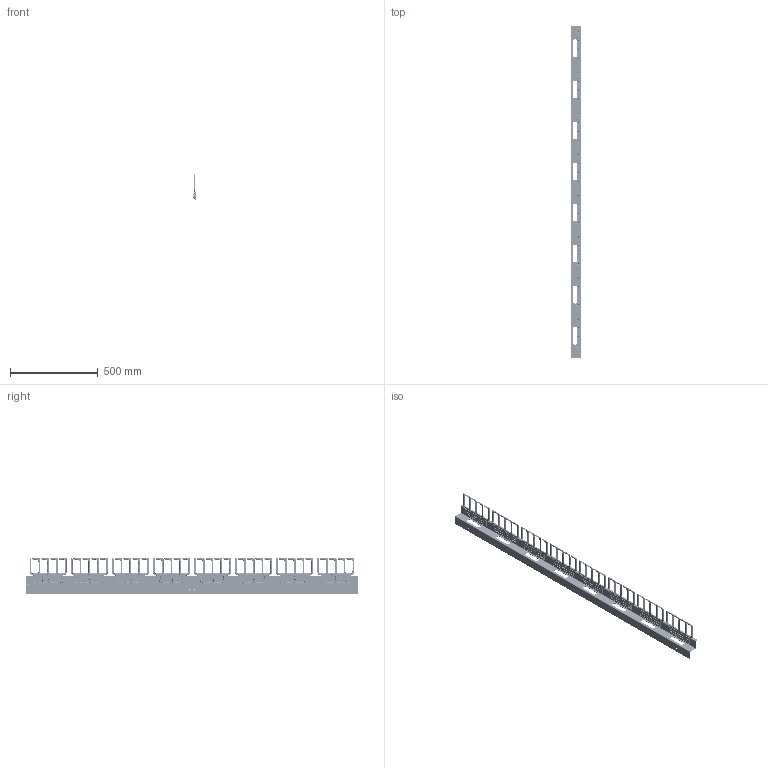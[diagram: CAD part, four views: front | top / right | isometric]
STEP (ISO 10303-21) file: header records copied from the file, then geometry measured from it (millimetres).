
FILE_DESCRIPTION((''),'2;1');
FILE_NAME('D:\Scratch\Ideas\pdp167\PRBF205.stp', '2005-11-22T10:14:10',('User'),('SDRC'),'I-DEAS Master Series 9','UNIX', 'Yes');
FILE_SCHEMA(('AUTOMOTIVE_DESIGN { 1 0 10303 214 0 1 1 1 }'));
Length unit declared in the file: inch
Products named in the file (4): assy_rdc_bkt_finger_2000x50; bkt_finger_reducing_2000x50; fingers_cable_management; plate_spacer
Assembly tree (12 placements, depth 2):
  assy_rdc_bkt_finger_2000x50
    bkt_finger_reducing_2000x50
    fingers_cable_management  x8
    plate_spacer  x3
Bounding box: 61.35 x 1891.41 x 202.42 mm (x, y, z)
Volume: 983956.4 mm3; surface area: 971704 mm2
Topology: 12 solids, 12 shells, 16002 faces, 36462 edges, 20964 vertices
Faces by surface type: bspline 16002
Entity records: 85510 total; most frequent: CARTESIAN_POINT 57929, ORIENTED_EDGE 9916, EDGE_CURVE 4958, VERTEX_POINT 2898, EDGE_LOOP 2298, FACE_OUTER_BOUND 2142, ADVANCED_FACE 2142, B_SPLINE_CURVE_WITH_KNOTS 1938
